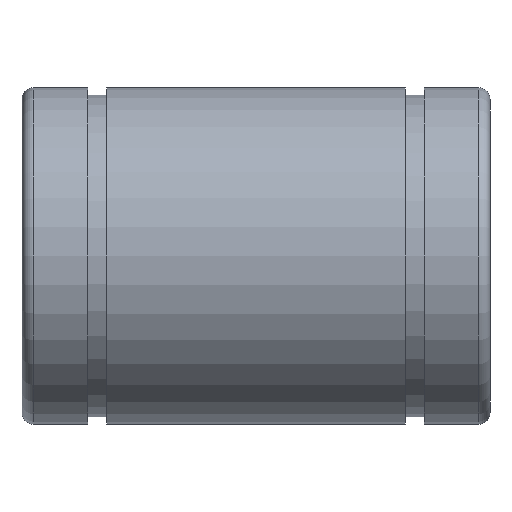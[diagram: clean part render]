
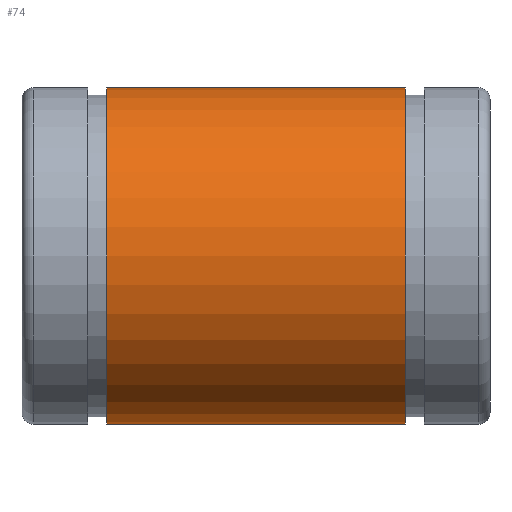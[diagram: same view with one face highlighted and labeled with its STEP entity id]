
A CAD part, front view. The second image highlights one B-rep face of the part: STEP entity #74.
In plain terms, the highlighted cylindrical face has radius 11.5 mm (diameter 23 mm), a full revolution.
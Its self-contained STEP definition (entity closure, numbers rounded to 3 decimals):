
#74 = ADVANCED_FACE( '', ( #159, #160 ), #161, .T. );
#159 = FACE_OUTER_BOUND( '', #238, .T. );
#160 = FACE_OUTER_BOUND( '', #239, .T. );
#161 = CYLINDRICAL_SURFACE( '', #240, 11.5 );
#238 = EDGE_LOOP( '', ( #343 ) );
#239 = EDGE_LOOP( '', ( #344 ) );
#240 = AXIS2_PLACEMENT_3D( '', #345, #346, #347 );
#343 = ORIENTED_EDGE( '', *, *, #372, .F. );
#344 = ORIENTED_EDGE( '', *, *, #376, .T. );
#345 = CARTESIAN_POINT( '', ( 16., 0., 0. ) );
#346 = DIRECTION( '', ( -1., 0., 0. ) );
#347 = DIRECTION( '', ( 0., 1., 0. ) );
#372 = EDGE_CURVE( '', #419, #419, #420, .T. );
#376 = EDGE_CURVE( '', #425, #425, #426, .T. );
#419 = VERTEX_POINT( '', #473 );
#420 = CIRCLE( '', #474, 11.5 );
#425 = VERTEX_POINT( '', #479 );
#426 = CIRCLE( '', #480, 11.5 );
#473 = CARTESIAN_POINT( '', ( 5.8, 11.5, 0. ) );
#474 = AXIS2_PLACEMENT_3D( '', #531, #532, #533 );
#479 = CARTESIAN_POINT( '', ( 26.2, 11.5, 0. ) );
#480 = AXIS2_PLACEMENT_3D( '', #537, #538, #539 );
#531 = CARTESIAN_POINT( '', ( 5.8, 0., 0. ) );
#532 = DIRECTION( '', ( -1., 0., 0. ) );
#533 = DIRECTION( '', ( 0., 1., 0. ) );
#537 = CARTESIAN_POINT( '', ( 26.2, 0., 0. ) );
#538 = DIRECTION( '', ( -1., 0., 0. ) );
#539 = DIRECTION( '', ( 0., 1., 0. ) );
